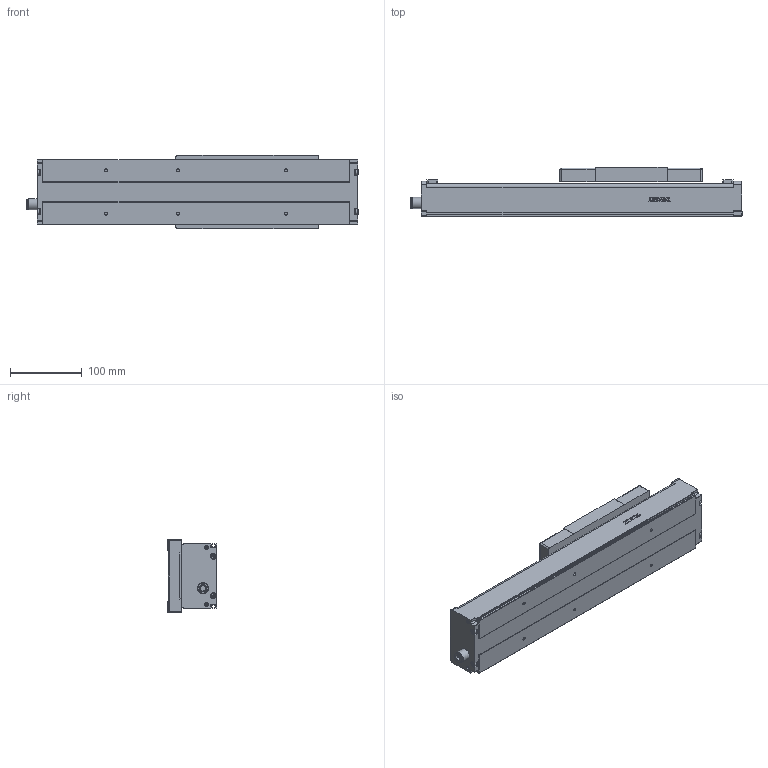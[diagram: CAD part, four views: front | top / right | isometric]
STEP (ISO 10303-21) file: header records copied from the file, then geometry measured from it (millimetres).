
FILE_DESCRIPTION(/* description */ (''),/* implementation_level */ '2;1');
FILE_NAME(/* name */ 'D:\混合母檔20191031\混和母檔\混和母檔\bin\Debug\Download\3D\KS90-10C-150AF0\KS90-10C-150AF0.stp',/* time_stamp */ '2019-11-04T14:39:02+08:00',/* author */ ('user'),/* organization */ (''),/* preprocessor_version */ 'ST-DEVELOPER v16.13',/* originating_system */ 'Autodesk Inventor 2018',/* authorisation */ '');
FILE_SCHEMA (('AUTOMOTIVE_DESIGN { 1 0 10303 214 3 1 1 }'));
Length unit declared in the file: millimetre
Products named in the file (3): KS90-10C-150AF0; KS90-F0; KS90-SL
Assembly tree (2 placements, depth 2):
  KS90-10C-150AF0
    KS90-F0
    KS90-SL
Bounding box: 461.6 x 68.5 x 102.4 mm (x, y, z)
Volume: 945464.2 mm3; surface area: 322265.6 mm2
Topology: 3 solids, 13 shells, 1013 faces, 2774 edges, 1830 vertices
Faces by surface type: plane 563, cylinder 142, bspline 136, cone 120, torus 48, sphere 4
Full cylindrical faces by diameter (mm): 2.113 x2, 2.459 x8, 2.5 x4, 2.693 x8, 3 x12, 3.242 x6, 3.5 x8, 4 x7, 4.134 x6, 4.5 x8, 4.917 x4, 5.5 x12, 6 x3, 7 x4, 8 x2, 10.437 x1, 11 x1, 11.5 x1, 14 x1, 15.538 x1, 28 x1, 30 x1
Entity records: 37725 total; most frequent: CARTESIAN_POINT 14028, ORIENTED_EDGE 4998, DIRECTION 4424, EDGE_CURVE 2499, VERTEX_POINT 1721, LINE 1498, VECTOR 1498, AXIS2_PLACEMENT_3D 1463
